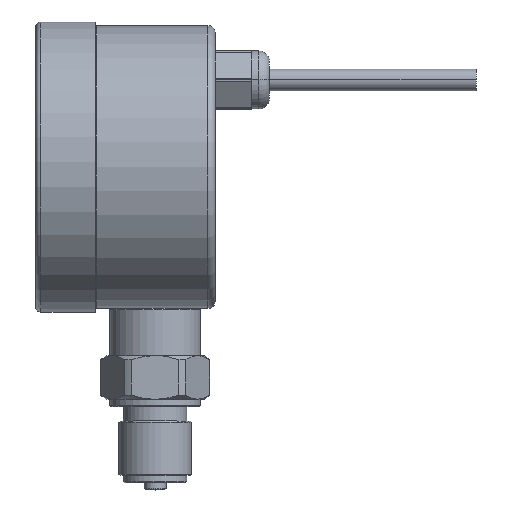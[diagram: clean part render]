
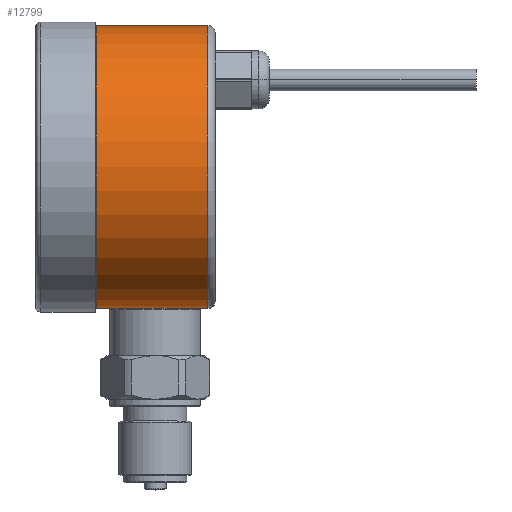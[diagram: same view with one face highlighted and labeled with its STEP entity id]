
A CAD part, top view. The second image highlights one B-rep face of the part: STEP entity #12799.
In plain terms, the highlighted cylindrical face has radius 39 mm (diameter 78 mm), a full revolution.
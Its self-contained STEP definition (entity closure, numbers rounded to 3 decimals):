
#11141=CYLINDRICAL_SURFACE('',#32993,39.);
#12799=ADVANCED_FACE('',(#13034,#13035),#11141,.T.);
#13034=FACE_BOUND('',#14829,.T.);
#13035=FACE_BOUND('',#14830,.T.);
#14829=EDGE_LOOP('',(#23887));
#14830=EDGE_LOOP('',(#23888));
#23887=ORIENTED_EDGE('',*,*,#31518,.T.);
#23888=ORIENTED_EDGE('',*,*,#31519,.T.);
#26975=VERTEX_POINT('',#74807);
#26976=VERTEX_POINT('',#74810);
#31518=EDGE_CURVE('',#26975,#26975,#31677,.T.);
#31519=EDGE_CURVE('',#26976,#26976,#31678,.T.);
#31677=CIRCLE('',#32988,39.);
#31678=CIRCLE('',#32990,39.);
#32988=AXIS2_PLACEMENT_3D('',#74806,#39002,#39003);
#32990=AXIS2_PLACEMENT_3D('',#74809,#39006,#39007);
#32993=AXIS2_PLACEMENT_3D('',#74814,#39012,#39013);
#39002=DIRECTION('',(1.,0.,0.));
#39003=DIRECTION('',(0.,0.,-1.));
#39006=DIRECTION('',(-1.,0.,0.));
#39007=DIRECTION('',(0.,0.,-1.));
#39012=DIRECTION('',(1.,0.,0.));
#39013=DIRECTION('',(0.,0.,-1.));
#74806=CARTESIAN_POINT('',(-32.172,-11.805,350.));
#74807=CARTESIAN_POINT('',(-32.172,-11.805,311.));
#74809=CARTESIAN_POINT('',(-1.372,-11.805,350.));
#74810=CARTESIAN_POINT('',(-1.372,-11.805,311.));
#74814=CARTESIAN_POINT('',(0.628,-11.805,350.));
